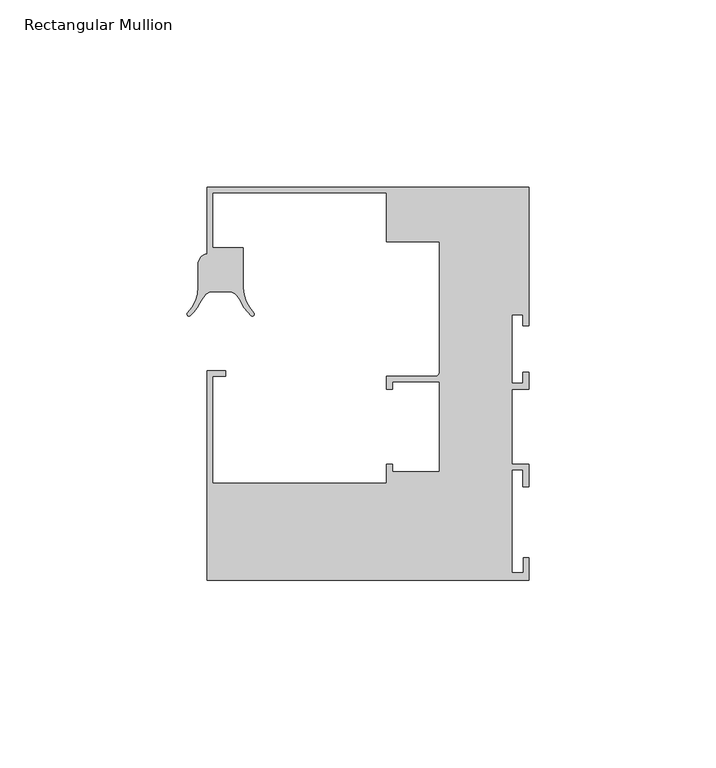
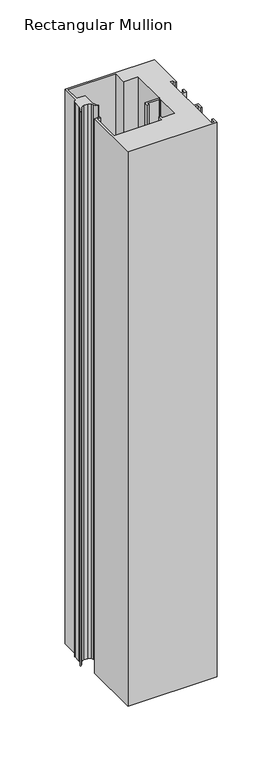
"""IFC4 building model written with IfcOpenShell, lengths in millimetres: member geometry, Rectangular Mullion : Danpal_Airpt_End-Mullion_B1."""

from ifc_helpers import new_model, si_unit, point, frame, frame_2d, origin, place, context, project, spatial, polyline, circle_curve, trimmed, segment, composite_curve, outline, extrude, source, transform, mapped, element, save


def rectangular_mullion_b07ed6fc(model_context):
    return source(origin(), model_context, "Body", "SweptSolid", [
        extrude(outline(composite_curve([segment(polyline([(-84.5, -44.249979), (-38.0, -44.249979), (-38.0, -39.2500001), (-36.4, -39.2500001), (-36.4, -41.2500001), (-23.9180899, -41.2500001), (-23.9180899, -17.2500031), (-36.4180899, -17.2500031), (-36.4180899, -19.2500031), (-38.0180899, -19.2500031), (-38.0180899, -15.7500031), (-24.969716, -15.7500031)]), True, "CONTINUOUS"), segment(trimmed(circle_curve(frame_2d((-24.969716, -14.698377)), 1.0516261), [point((-24.969716, -15.7500031))], [point((-23.9180899, -14.698377))], True, "CARTESIAN"), True, "CONTINUOUS"), segment(polyline([(-23.9180899, -14.698377), (-23.9180899, 20.2499969), (-38.0180899, 20.2499969), (-38.0180899, 33.2499969), (-84.5180945, 33.2499969), (-84.5180945, 18.6499969), (-76.3180945, 18.6499969), (-76.3180945, 7.8643287)]), True, "CONTINUOUS"), segment(trimmed(circle_curve(frame_2d((-66.322244, 8.1523787)), 10.0), [point((-76.3180945, 7.8643287))], [point((-73.5120728, 1.2021009))], True, "CARTESIAN"), True, "CONTINUOUS"), segment(trimmed(circle_curve(frame_2d((-73.8718016, 0.8543575)), 0.5003301), [point((-73.5120728, 1.2021009))], [point((-74.1944462, 0.4719563))], False, "CARTESIAN"), True, "CONTINUOUS"), segment(trimmed(circle_curve(frame_2d((-67.7458114, 8.1149337)), 9.9999997), [point((-74.1944462, 0.4719563))], [point((-76.759944, 3.7853369))], False, "CARTESIAN"), True, "CONTINUOUS"), segment(trimmed(circle_curve(frame_2d((-85.7740768, -0.5442599)), 10.0), [point((-76.759944, 3.7853369))], [point((-77.9898528, 5.7331484))], True, "CARTESIAN"), True, "CONTINUOUS"), segment(trimmed(circle_curve(frame_2d((-80.32512, 3.8499259)), 3.0), [point((-77.9898528, 5.7331484))], [point((-80.32512, 6.8499259))], True, "CARTESIAN"), True, "CONTINUOUS"), segment(polyline([(-80.32512, 6.8499259), (-84.363764, 6.8499259)]), True, "CONTINUOUS"), segment(trimmed(circle_curve(frame_2d((-84.363764, 3.8499259)), 3.0), [point((-84.363764, 6.8499259))], [point((-86.6990305, 5.7331494))], True, "CARTESIAN"), True, "CONTINUOUS"), segment(trimmed(circle_curve(frame_2d((-78.9148092, -0.544262)), 9.9999997), [point((-86.6990305, 5.7331494))], [point((-87.9289412, 3.785336))], True, "CARTESIAN"), True, "CONTINUOUS"), segment(trimmed(circle_curve(frame_2d((-96.9430732, 8.114934)), 9.9999998), [point((-87.9289412, 3.785336))], [point((-90.4970116, 0.4697862))], False, "CARTESIAN"), True, "CONTINUOUS"), segment(trimmed(circle_curve(frame_2d((-90.8194227, 0.8521716)), 0.5001675), [point((-90.4970116, 0.4697862))], [point((-91.1789286, 1.1999114))], False, "CARTESIAN"), True, "CONTINUOUS"), segment(trimmed(circle_curve(frame_2d((-98.3666403, 8.1523787)), 10.0), [point((-91.1789286, 1.1999114))], [point((-88.3666989, 8.1181379))], True, "CARTESIAN"), True, "CONTINUOUS"), segment(polyline([(-88.3666989, 8.1181379), (-88.3666989, 14.1183419)]), True, "CONTINUOUS"), segment(trimmed(circle_curve(frame_2d((-85.366716, 14.1081309)), 3.0000002), [point((-88.3666989, 14.1183419))], [point((-86.0180914, 17.0365625))], False, "CARTESIAN"), True, "CONTINUOUS"), segment(polyline([(-86.0180914, 17.0365625), (-86.0180914, 34.75), (-0.0180922, 34.75), (-0.0180922, -2.25), (-1.5180922, -2.25), (-1.5180922, 0.75), (-4.5180922, 0.75), (-4.5180922, -17.65), (-1.5180922, -17.65), (-1.5180922, -14.65), (-0.0180922, -14.65), (-0.0180922, -19.25), (-4.5, -19.25), (-4.5, -39.2500001), (-0.0180937, -39.2500001), (-0.0180937, -45.2500001), (-1.5180937, -45.2500001), (-1.5180937, -40.7500001), (-4.5, -40.7500001), (-4.5, -68.2500001), (-1.5, -68.2500001), (-1.5, -64.2500001), (0.0, -64.2500001), (0.0, -70.2500001), (-86.0, -70.2500001), (-86.0, -14.2500001), (-81.0, -14.2500001), (-81.0, -15.7500001), (-84.5, -15.7500001), (-84.5, -44.249979)]), True, "CONTINUOUS")], self_intersect=False)), frame((0.0, 0.0, -565.3514979), z_axis=(0.0, 0.0, 1.0), x_axis=(1.0, 0.0, 0.0)), (0.0, 0.0, 1.0), 565.3514979),
    ])


if __name__ == "__main__":
    model = new_model("IFC4")
    model_context = context("Model", 3, world=origin())
    ifc_project = project(units=[si_unit("LENGTHUNIT", "METRE", prefix="MILLI")], contexts=[model_context])
    site = spatial("IfcSite", under=ifc_project)
    building = spatial("IfcBuilding", under=site)
    placement = place(None, origin())
    rectangular_mullion_shape = rectangular_mullion_b07ed6fc(model_context)
    element("IfcMember", 1, ObjectType="Rectangular Mullion : Danpal_Airpt_End-Mullion_B1", at=placement, inside=building, context=model_context, shape_type="MappedRepresentation", body=[
        mapped(rectangular_mullion_shape, transform((0.0, 0.0, 0.0), x_axis=(1.0, 0.0, 0.0), y_axis=(0.0, 1.0, 0.0), z_axis=(0.0, 0.0, 1.0))),
    ])
    save(model, "model.ifc")
